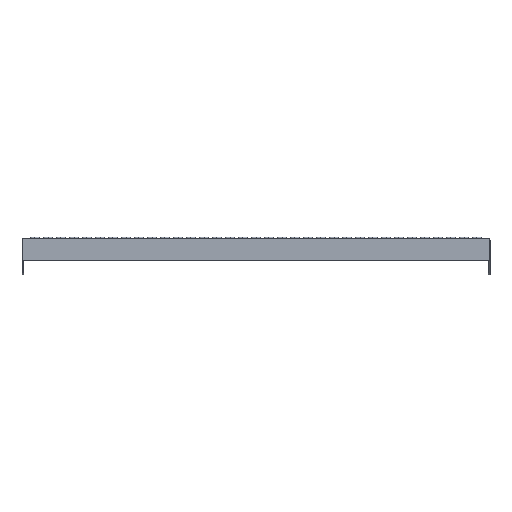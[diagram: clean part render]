
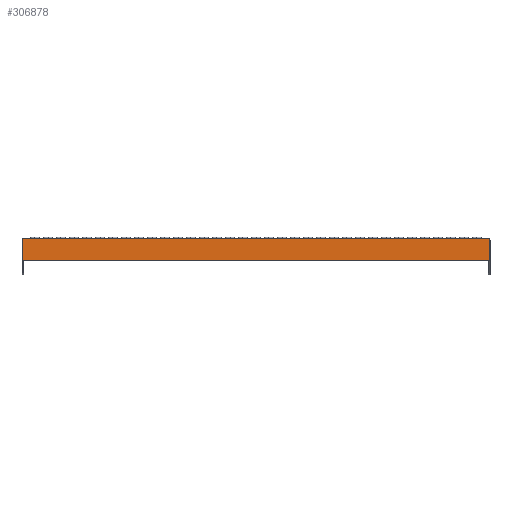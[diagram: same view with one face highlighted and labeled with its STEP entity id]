
A CAD part, front view. The second image highlights one B-rep face of the part: STEP entity #306878.
In plain terms, the highlighted planar face has unit normal (0, -1, 0).
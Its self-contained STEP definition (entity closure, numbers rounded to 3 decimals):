
#306878 = ADVANCED_FACE('',(#306879),#306893,.T.);
#306879 = FACE_BOUND('',#306880,.T.);
#306880 = EDGE_LOOP('',(#306881,#306904,#306920,#306936));
#306881 = ORIENTED_EDGE('',*,*,#306882,.T.);
#306882 = EDGE_CURVE('',#306883,#306885,#306887,.T.);
#306883 = VERTEX_POINT('',#306884);
#306884 = CARTESIAN_POINT('',(6900.,8795.,
    0.));
#306885 = VERTEX_POINT('',#306886);
#306886 = CARTESIAN_POINT('',(6000.,8795.,
    0.));
#306887 = SURFACE_CURVE('',#306888,(#306892),.PCURVE_S1.);
#306888 = LINE('',#306889,#306890);
#306889 = CARTESIAN_POINT('',(6900.,8795.,
    0.));
#306890 = VECTOR('',#306891,1.);
#306891 = DIRECTION('',(-1.,0.,0.));
#306892 = PCURVE('',#306893,#306898);
#306893 = PLANE('',#306894);
#306894 = AXIS2_PLACEMENT_3D('',#306895,#306896,#306897);
#306895 = CARTESIAN_POINT('',(6450.,8795.,
    -21.25));
#306896 = DIRECTION('',(0.,-1.,0.));
#306897 = DIRECTION('',(0.,0.,-1.));
#306898 = DEFINITIONAL_REPRESENTATION('',(#306899),#306903);
#306899 = LINE('',#306900,#306901);
#306900 = CARTESIAN_POINT('',(-21.25,450.));
#306901 = VECTOR('',#306902,1.);
#306902 = DIRECTION('',(0.,-1.));
#306903 = ( GEOMETRIC_REPRESENTATION_CONTEXT(2) 
PARAMETRIC_REPRESENTATION_CONTEXT() REPRESENTATION_CONTEXT('2D SPACE',''
  ) );
#306904 = ORIENTED_EDGE('',*,*,#306905,.T.);
#306905 = EDGE_CURVE('',#306885,#306906,#306908,.T.);
#306906 = VERTEX_POINT('',#306907);
#306907 = CARTESIAN_POINT('',(6000.,8795.,-42.5)
  );
#306908 = SURFACE_CURVE('',#306909,(#306913),.PCURVE_S1.);
#306909 = LINE('',#306910,#306911);
#306910 = CARTESIAN_POINT('',(6000.,8795.,
    0.));
#306911 = VECTOR('',#306912,1.);
#306912 = DIRECTION('',(0.,0.,-1.));
#306913 = PCURVE('',#306893,#306914);
#306914 = DEFINITIONAL_REPRESENTATION('',(#306915),#306919);
#306915 = LINE('',#306916,#306917);
#306916 = CARTESIAN_POINT('',(-21.25,-450.));
#306917 = VECTOR('',#306918,1.);
#306918 = DIRECTION('',(1.,0.));
#306919 = ( GEOMETRIC_REPRESENTATION_CONTEXT(2) 
PARAMETRIC_REPRESENTATION_CONTEXT() REPRESENTATION_CONTEXT('2D SPACE',''
  ) );
#306920 = ORIENTED_EDGE('',*,*,#306921,.T.);
#306921 = EDGE_CURVE('',#306906,#306922,#306924,.T.);
#306922 = VERTEX_POINT('',#306923);
#306923 = CARTESIAN_POINT('',(6900.,8795.,
    -42.5));
#306924 = SURFACE_CURVE('',#306925,(#306929),.PCURVE_S1.);
#306925 = LINE('',#306926,#306927);
#306926 = CARTESIAN_POINT('',(6000.,8795.,-42.5)
  );
#306927 = VECTOR('',#306928,1.);
#306928 = DIRECTION('',(1.,0.,0.));
#306929 = PCURVE('',#306893,#306930);
#306930 = DEFINITIONAL_REPRESENTATION('',(#306931),#306935);
#306931 = LINE('',#306932,#306933);
#306932 = CARTESIAN_POINT('',(21.25,-450.));
#306933 = VECTOR('',#306934,1.);
#306934 = DIRECTION('',(0.,1.));
#306935 = ( GEOMETRIC_REPRESENTATION_CONTEXT(2) 
PARAMETRIC_REPRESENTATION_CONTEXT() REPRESENTATION_CONTEXT('2D SPACE',''
  ) );
#306936 = ORIENTED_EDGE('',*,*,#306937,.T.);
#306937 = EDGE_CURVE('',#306922,#306883,#306938,.T.);
#306938 = SURFACE_CURVE('',#306939,(#306943),.PCURVE_S1.);
#306939 = LINE('',#306940,#306941);
#306940 = CARTESIAN_POINT('',(6900.,8795.,
    -42.5));
#306941 = VECTOR('',#306942,1.);
#306942 = DIRECTION('',(0.,0.,1.));
#306943 = PCURVE('',#306893,#306944);
#306944 = DEFINITIONAL_REPRESENTATION('',(#306945),#306949);
#306945 = LINE('',#306946,#306947);
#306946 = CARTESIAN_POINT('',(21.25,450.));
#306947 = VECTOR('',#306948,1.);
#306948 = DIRECTION('',(-1.,0.));
#306949 = ( GEOMETRIC_REPRESENTATION_CONTEXT(2) 
PARAMETRIC_REPRESENTATION_CONTEXT() REPRESENTATION_CONTEXT('2D SPACE',''
  ) );
